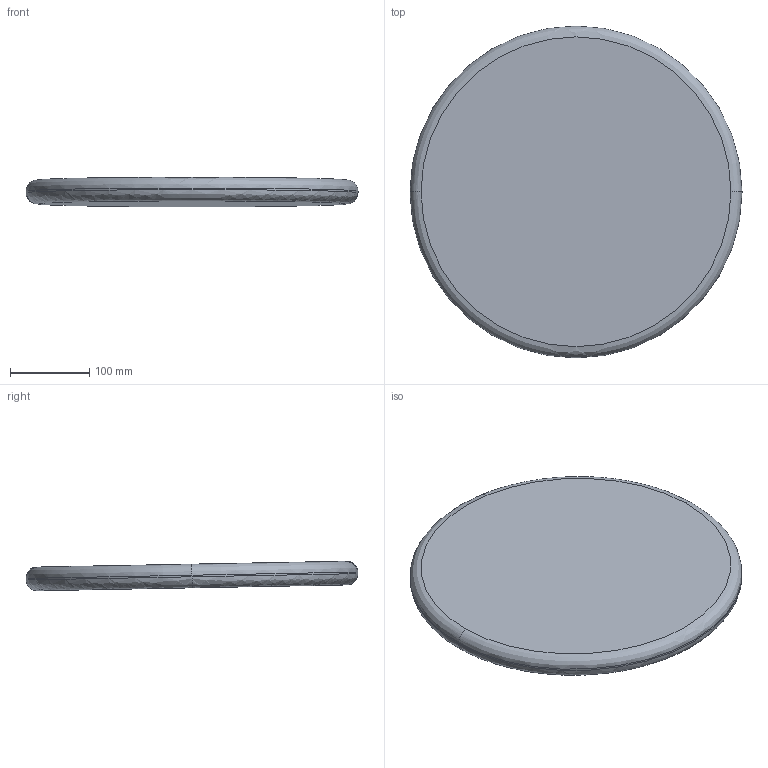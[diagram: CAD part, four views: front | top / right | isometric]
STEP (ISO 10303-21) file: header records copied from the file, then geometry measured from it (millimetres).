
FILE_DESCRIPTION(/* description */ (''),/* implementation_level */ '2;1');
FILE_NAME(/* name */ '270 padding',/* time_stamp */ '2025-03-03T13:52:35+01:00',/* author */ (''),/* organization */ (''),/* preprocessor_version */ 'ST-DEVELOPER v19.2',/* originating_system */ 'Rhino 8.15',/* authorisation */ '');
FILE_SCHEMA (('CONFIG_CONTROL_DESIGN'));
Length unit declared in the file: millimetre
Products named in the file (1): Document
Bounding box: 420 x 419.96 x 37.41 mm (x, y, z)
Volume: 4046632.5 mm3; surface area: 300676.9 mm2
Topology: 1 solids, 1 shells, 8 faces, 14 edges, 8 vertices
Faces by surface type: bspline 4, cylinder 2, plane 2
Entity records: 352 total; most frequent: CARTESIAN_POINT 114, DIRECTION 32, ORIENTED_EDGE 28, AXIS2_PLACEMENT_3D 18, EDGE_CURVE 14, TRIMMED_CURVE 12, CIRCLE 12, ADVANCED_FACE 8
